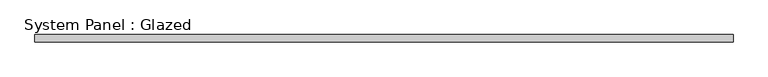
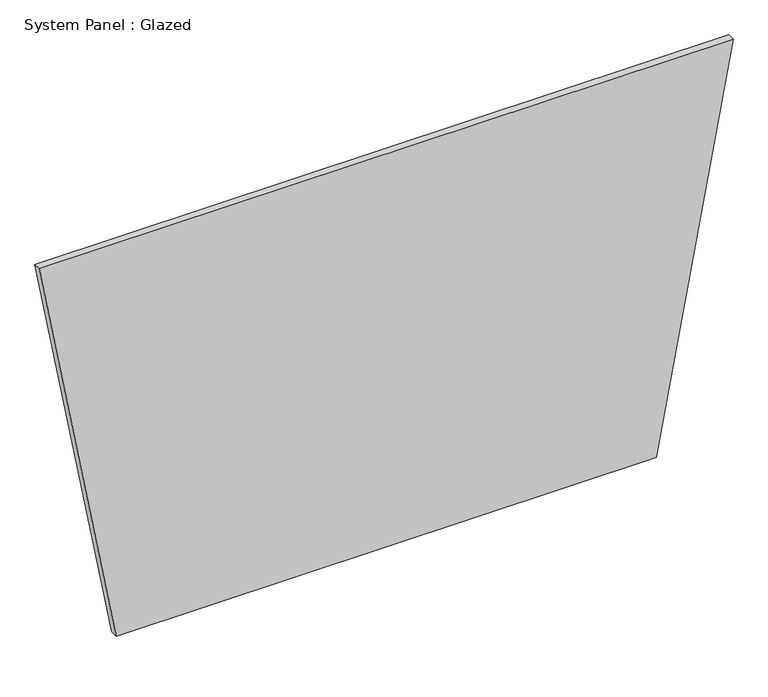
"""IFC4 building model written with IfcOpenShell, lengths in millimetres: plate geometry, System Panel : Glazed."""

from ifc_helpers import new_model, si_unit, frame, origin, place, context, project, spatial, polyline, outline, extrude, source, transform, mapped, element, save


def system_panel_glazed_0b4b9341(model_context):
    return source(origin(), model_context, "Body", "SweptSolid", [
        extrude(outline(polyline([(0.0, -932.2704324), (0.0, 932.2704324), (1435.0528112, 1197.8549081), (1435.0528112, -1197.8549081), (0.0, -932.2704324)])), frame((0.0, 19.05, 0.0), z_axis=(0.0, 1.0, 0.0), x_axis=(0.0, 0.0, 1.0)), (0.0, 0.0, 1.0), 25.4),
    ])


if __name__ == "__main__":
    model = new_model("IFC4")
    model_context = context("Model", 3, world=origin())
    ifc_project = project(units=[si_unit("LENGTHUNIT", "METRE", prefix="MILLI")], contexts=[model_context])
    site = spatial("IfcSite", under=ifc_project)
    building = spatial("IfcBuilding", under=site)
    placement = place(None, origin())
    system_panel_glazed_shape = system_panel_glazed_0b4b9341(model_context)
    element("IfcPlate", 1, ObjectType="System Panel : Glazed", at=placement, inside=building, context=model_context, shape_type="MappedRepresentation", body=[
        mapped(system_panel_glazed_shape, transform((0.0, 0.0, 0.0), x_axis=(1.0, 0.0, 0.0), y_axis=(0.0, 1.0, 0.0), z_axis=(0.0, 0.0, 1.0))),
    ])
    save(model, "model.ifc")
